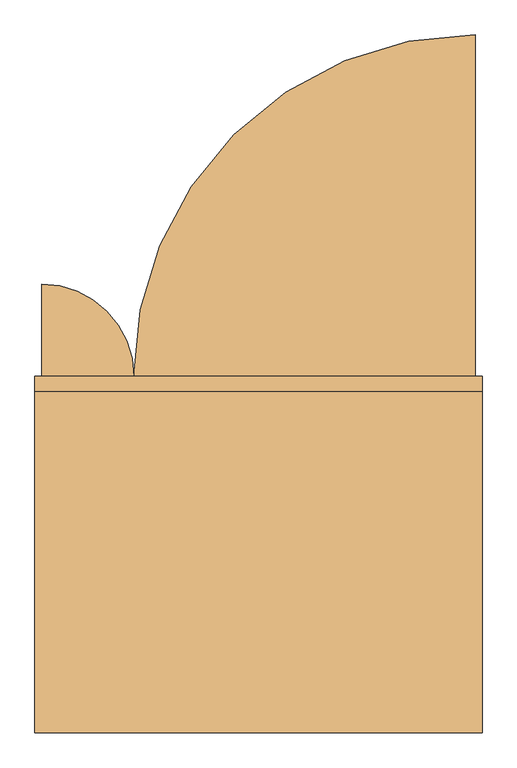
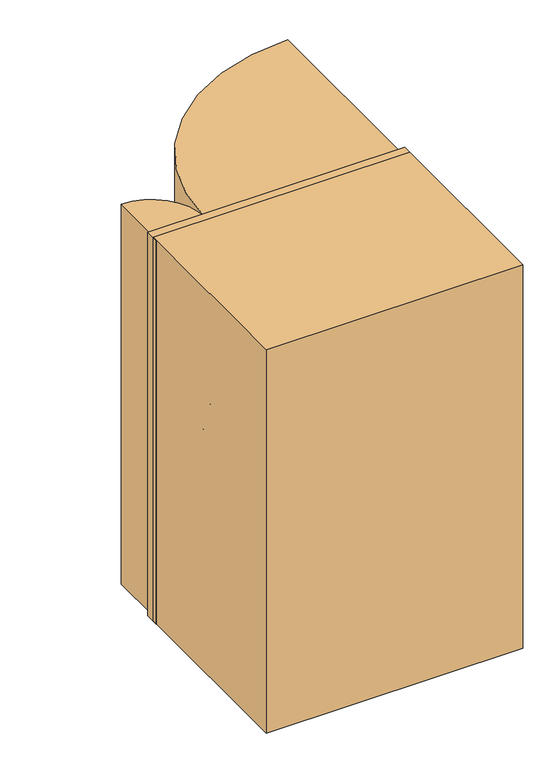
"""IFC4 building model written with IfcOpenShell, lengths in millimetres: door geometry, Дверь_Противопожарная_Внутренняя_Двупольная_с_Порогом : 1310 х 2070(h)_Л_EI30."""

from ifc_helpers import new_model, si_unit, point, frame, frame_2d, origin, origin_with_axes, place, context, project, spatial, polyline, circle_curve, ellipse_curve, trimmed, segment, composite_curve, outline, extrude, faceted_brep, source, transform, mapped, element, save
from ifc_brep_helpers import plane_surface, cylinder_surface, revolved_surface, advanced_brep


def door_10c92136(model_context):
    return source(origin(), model_context, "Body", "SolidModel", [
        extrude(outline(composite_curve([segment(trimmed(circle_curve(frame_2d((-635.0, -17.5)), 270.0), [point((-635.0, 252.5))], [point((-365.0, -17.5))], False, "CARTESIAN"), True, "CONTINUOUS"), segment(polyline([(-365.0, -17.5), (-635.0, -17.5), (-635.0, 252.5)]), True, "CONTINUOUS")], self_intersect=False)), origin_with_axes(), (0.0, 0.0, 1.0), 2050.0),
        extrude(outline(composite_curve([segment(polyline([(635.0, 982.5), (635.0, -17.5), (-365.0, -17.5)]), True, "CONTINUOUS"), segment(trimmed(circle_curve(frame_2d((635.0, -17.5)), 1000.0), [point((-365.0, -17.5))], [point((635.0, 982.5))], False, "CARTESIAN"), True, "CONTINUOUS")], self_intersect=False)), origin_with_axes(), (0.0, 0.0, 1.0), 2050.0),
        extrude(outline(polyline([(-655.0, -1062.5), (-655.0, -62.5), (655.0, -62.5), (655.0, -1062.5), (-655.0, -1062.5)])), origin_with_axes(), (0.0, 0.0, 1.0), 2070.0),
        advanced_brep(
        [(-545.0, 44.5, 1000.0), (-545.0, 20.5, 1000.0), (-445.0, 20.5, 1000.0), (-445.0, 44.5, 1000.0), (-437.0, 12.5, 1000.0), (-413.0, 12.5, 1000.0), (-413.0, -122.5, 1000.0), (-413.0, -100.5, 1000.0), (-437.0, -100.5, 1000.0), (-437.0, -122.5, 1000.0), (-437.0, -9.5, 1000.0), (-413.0, -9.5, 1000.0), (-445.0, -130.5, 1000.0), (-445.0, -154.5, 1000.0), (-545.0, -154.5, 1000.0), (-545.0, -130.5, 1000.0), (-400.0, -9.5, 1000.0), (-450.0, -9.5, 1000.0), (-400.0, -100.5, 1000.0), (-450.0, -100.5, 1000.0)],
        [
            (0, 1, circle_curve(frame((-545.0, 32.5, 1000.0), z_axis=(-1.0, 0.0, 0.0), x_axis=(0.0, -1.0, 0.0)), 12.0)),
            (1, 0, circle_curve(frame((-545.0, 32.5, 1000.0), z_axis=(-1.0, 0.0, 0.0), x_axis=(0.0, -1.0, 0.0)), 12.0)),
            (1, 2),
            (2, 3, circle_curve(frame((-445.0, 32.5, 1000.0), z_axis=(-1.0, 0.0, 0.0), x_axis=(0.0, -1.0, 0.0)), 12.0)),
            (3, 0),
            (3, 2, circle_curve(frame((-445.0, 32.5, 1000.0), z_axis=(-1.0, 0.0, 0.0), x_axis=(0.0, -1.0, 0.0)), 12.0)),
            (2, 4, circle_curve(frame((-445.0, 12.5, 1000.0), z_axis=(0.0, 0.0, -1.0), x_axis=(0.0, 1.0, 0.0)), 8.0)),
            (4, 5, circle_curve(frame((-425.0, 12.5, 1000.0), z_axis=(0.0, 1.0, 0.0), x_axis=(-1.0, 0.0, 0.0)), 12.0)),
            (5, 3, circle_curve(frame((-445.0, 12.5, 1000.0), z_axis=(0.0, 0.0, 1.0), x_axis=(0.0, 1.0, 0.0)), 32.0)),
            (5, 4, circle_curve(frame((-425.0, 12.5, 1000.0), z_axis=(0.0, 1.0, 0.0), x_axis=(-1.0, 0.0, 0.0)), 12.0)),
            (6, 7),
            (7, 8, circle_curve(frame((-425.0, -100.5, 1000.0), z_axis=(0.0, -1.0, 0.0), x_axis=(-1.0, 0.0, 0.0)), 12.0)),
            (8, 9),
            (9, 6, circle_curve(frame((-425.0, -122.5, 1000.0), z_axis=(0.0, 1.0, 0.0), x_axis=(-1.0, 0.0, 0.0)), 12.0)),
            (4, 10),
            (10, 11, circle_curve(frame((-425.0, -9.5, 1000.0), z_axis=(0.0, 1.0, 0.0), x_axis=(-1.0, 0.0, 0.0)), 12.0)),
            (11, 5),
            (11, 10, circle_curve(frame((-425.0, -9.5, 1000.0), z_axis=(0.0, 1.0, 0.0), x_axis=(-1.0, 0.0, 0.0)), 12.0)),
            (8, 7, circle_curve(frame((-425.0, -100.5, 1000.0), z_axis=(0.0, -1.0, 0.0), x_axis=(-1.0, 0.0, 0.0)), 12.0)),
            (6, 9, circle_curve(frame((-425.0, -122.5, 1000.0), z_axis=(0.0, 1.0, 0.0), x_axis=(-1.0, 0.0, 0.0)), 12.0)),
            (9, 12, circle_curve(frame((-445.0, -122.5, 1000.0), z_axis=(0.0, 0.0, -1.0), x_axis=(1.0, 0.0, 0.0)), 8.0)),
            (12, 13, circle_curve(frame((-445.0, -142.5, 1000.0), z_axis=(1.0, 0.0, 0.0), x_axis=(0.0, 1.0, 0.0)), 12.0)),
            (13, 6, circle_curve(frame((-445.0, -122.5, 1000.0), z_axis=(0.0, 0.0, 1.0), x_axis=(1.0, 0.0, 0.0)), 32.0)),
            (13, 12, circle_curve(frame((-445.0, -142.5, 1000.0), z_axis=(1.0, 0.0, 0.0), x_axis=(0.0, 1.0, 0.0)), 12.0)),
            (14, 15, circle_curve(frame((-545.0, -142.5, 1000.0), z_axis=(-1.0, 0.0, 0.0), x_axis=(0.0, 1.0, 0.0)), 12.0)),
            (15, 14, circle_curve(frame((-545.0, -142.5, 1000.0), z_axis=(-1.0, 0.0, 0.0), x_axis=(0.0, 1.0, 0.0)), 12.0)),
            (12, 15),
            (14, 13),
            (16, 17, circle_curve(frame((-425.0, -9.5, 1000.0), z_axis=(0.0, 1.0, 0.0), x_axis=(-1.0, 0.0, 0.0)), 25.0)),
            (17, 16, circle_curve(frame((-425.0, -9.5, 1000.0), z_axis=(0.0, 1.0, 0.0), x_axis=(-1.0, 0.0, 0.0)), 25.0)),
            (18, 19, circle_curve(frame((-425.0, -100.5, 1000.0), z_axis=(0.0, -1.0, 0.0), x_axis=(-1.0, 0.0, 0.0)), 25.0)),
            (19, 18, circle_curve(frame((-425.0, -100.5, 1000.0), z_axis=(0.0, -1.0, 0.0), x_axis=(-1.0, 0.0, 0.0)), 25.0)),
            (16, 18),
            (19, 17),
        ],
        [
            plane_surface(frame((-545.0, 32.5, 1000.0), z_axis=(-1.0, 0.0, 0.0), x_axis=(0.0, 0.0, 1.0))),
            cylinder_surface(frame((-545.0, 32.5, 1000.0), z_axis=(-1.0, 0.0, 0.0), x_axis=(0.0, -1.0, 0.0)), 12.0),
            revolved_surface(trimmed(ellipse_curve(frame((-445.0, 32.5, 1000.0), z_axis=(1.0, 0.0, 0.0), x_axis=(0.0, -1.0, 0.0)), 12.0, 12.0), [point((-445.0, 44.5, 1000.0))], [point((-445.0, 20.5, 1000.0))], True, "CARTESIAN"), (-445.0, 12.5, 1000.0), (0.0, 0.0, 1.0)),
            revolved_surface(trimmed(ellipse_curve(frame((-445.0, 32.5, 1000.0), z_axis=(1.0, 0.0, 0.0), x_axis=(0.0, -1.0, 0.0)), 12.0, 12.0), [point((-445.0, 20.5, 1000.0))], [point((-445.0, 44.5, 1000.0))], True, "CARTESIAN"), (-445.0, 12.5, 1000.0), (0.0, 0.0, 1.0)),
            cylinder_surface(frame((-425.0, 12.5, 1000.0), z_axis=(0.0, 1.0, 0.0), x_axis=(-1.0, 0.0, 0.0)), 12.0),
            revolved_surface(trimmed(ellipse_curve(frame((-425.0, -122.5, 1000.0), z_axis=(0.0, -1.0, 0.0), x_axis=(-1.0, 0.0, 0.0)), 12.0, 12.0), [point((-413.0, -122.5, 1000.0))], [point((-437.0, -122.5, 1000.0))], True, "CARTESIAN"), (-445.0, -122.5, 1000.0), (0.0, 0.0, 1.0)),
            revolved_surface(trimmed(ellipse_curve(frame((-425.0, -122.5, 1000.0), z_axis=(0.0, -1.0, 0.0), x_axis=(-1.0, 0.0, 0.0)), 12.0, 12.0), [point((-437.0, -122.5, 1000.0))], [point((-413.0, -122.5, 1000.0))], True, "CARTESIAN"), (-445.0, -122.5, 1000.0), (0.0, 0.0, 1.0)),
            plane_surface(frame((-545.0, -142.5, 1000.0), z_axis=(-1.0, 0.0, 0.0), x_axis=(0.0, 0.0, 1.0))),
            cylinder_surface(frame((-445.0, -142.5, 1000.0), z_axis=(1.0, 0.0, 0.0), x_axis=(0.0, 1.0, 0.0)), 12.0),
            plane_surface(frame((-450.0, -9.5, 1000.0), z_axis=(0.0, 1.0, 0.0), x_axis=(0.0, 0.0, -1.0))),
            plane_surface(frame((-450.0, -100.5, 1000.0), z_axis=(0.0, -1.0, 0.0), x_axis=(0.0, 0.0, 1.0))),
            cylinder_surface(frame((-425.0, -9.5, 1000.0), z_axis=(0.0, -1.0, 0.0), x_axis=(-1.0, 0.0, 0.0)), 25.0),
        ],
        [
            (0, [[1, 2]]),
            (1, [[3, 4, 5, -2]]),
            (1, [[-5, 6, -3, -1]]),
            (2, [[7, 8, 9, -4]]),
            (3, [[-9, 10, -7, -6]]),
            (4, [[11, 12, 13, 14]]),
            (4, [[15, 16, 17, -8]]),
            (4, [[-17, 18, -15, -10]]),
            (4, [[-13, 19, -11, 20]]),
            (5, [[21, 22, 23, -14]]),
            (6, [[-23, 24, -21, -20]]),
            (7, [[25, 26]]),
            (8, [[27, -25, 28, -22]]),
            (8, [[-28, -26, -27, -24]]),
            (9, [[29, 30], [-18, -16]]),
            (10, [[31, 32], [-19, -12]]),
            (11, [[33, -32, 34, -29]]),
            (11, [[-34, -31, -33, -30]]),
        ],
    ),
        extrude(outline(composite_curve([segment(trimmed(circle_curve(frame_2d((900.0, -425.0)), 25.0), [point((900.0, -400.0))], [point((900.0, -450.0))], False, "CARTESIAN"), True, "CONTINUOUS"), segment(trimmed(circle_curve(frame_2d((900.0, -425.0)), 25.0), [point((900.0, -450.0))], [point((900.0, -400.0))], False, "CARTESIAN"), True, "CONTINUOUS")], self_intersect=False)), frame((0.0, -100.5, 0.0), z_axis=(0.0, 1.0, 0.0), x_axis=(0.0, 0.0, 1.0)), (0.0, 0.0, 1.0), 91.0),
        advanced_brep(
        [(-185.0, 44.5, 1000.0), (-185.0, 20.5, 1000.0), (-285.0, 44.5, 1000.0), (-285.0, 20.5, 1000.0), (-317.0, 12.5, 1000.0), (-293.0, 12.5, 1000.0), (-317.0, -9.5, 1000.0), (-293.0, -9.5, 1000.0), (-317.0, -122.5, 1000.0), (-293.0, -122.5, 1000.0), (-293.0, -100.5, 1000.0), (-317.0, -100.5, 1000.0), (-285.0, -154.5, 1000.0), (-285.0, -130.5, 1000.0), (-185.0, -154.5, 1000.0), (-185.0, -130.5, 1000.0), (-330.0, -9.5, 1000.0), (-280.0, -9.5, 1000.0), (-330.0, -100.5, 1000.0), (-280.0, -100.5, 1000.0)],
        [
            (0, 1, circle_curve(frame((-185.0, 32.5, 1000.0), z_axis=(1.0, 0.0, 0.0), x_axis=(0.0, -1.0, 0.0)), 12.0)),
            (1, 0, circle_curve(frame((-185.0, 32.5, 1000.0), z_axis=(1.0, 0.0, 0.0), x_axis=(0.0, -1.0, 0.0)), 12.0)),
            (0, 2),
            (2, 3, circle_curve(frame((-285.0, 32.5, 1000.0), z_axis=(1.0, 0.0, 0.0), x_axis=(0.0, -1.0, 0.0)), 12.0)),
            (3, 1),
            (3, 2, circle_curve(frame((-285.0, 32.5, 1000.0), z_axis=(1.0, 0.0, 0.0), x_axis=(0.0, -1.0, 0.0)), 12.0)),
            (2, 4, circle_curve(frame((-285.0, 12.5, 1000.0), z_axis=(0.0, 0.0, 1.0), x_axis=(0.0, 1.0, 0.0)), 32.0)),
            (4, 5, circle_curve(frame((-305.0, 12.5, 1000.0), z_axis=(0.0, 1.0, 0.0), x_axis=(1.0, 0.0, 0.0)), 12.0)),
            (5, 3, circle_curve(frame((-285.0, 12.5, 1000.0), z_axis=(0.0, 0.0, -1.0), x_axis=(0.0, 1.0, 0.0)), 8.0)),
            (5, 4, circle_curve(frame((-305.0, 12.5, 1000.0), z_axis=(0.0, 1.0, 0.0), x_axis=(1.0, 0.0, 0.0)), 12.0)),
            (4, 6),
            (6, 7, circle_curve(frame((-305.0, -9.5, 1000.0), z_axis=(0.0, 1.0, 0.0), x_axis=(1.0, 0.0, 0.0)), 12.0)),
            (7, 5),
            (8, 9, circle_curve(frame((-305.0, -122.5, 1000.0), z_axis=(0.0, 1.0, 0.0), x_axis=(1.0, 0.0, 0.0)), 12.0)),
            (9, 10),
            (10, 11, circle_curve(frame((-305.0, -100.5, 1000.0), z_axis=(0.0, -1.0, 0.0), x_axis=(1.0, 0.0, 0.0)), 12.0)),
            (11, 8),
            (7, 6, circle_curve(frame((-305.0, -9.5, 1000.0), z_axis=(0.0, 1.0, 0.0), x_axis=(1.0, 0.0, 0.0)), 12.0)),
            (9, 8, circle_curve(frame((-305.0, -122.5, 1000.0), z_axis=(0.0, 1.0, 0.0), x_axis=(1.0, 0.0, 0.0)), 12.0)),
            (11, 10, circle_curve(frame((-305.0, -100.5, 1000.0), z_axis=(0.0, -1.0, 0.0), x_axis=(1.0, 0.0, 0.0)), 12.0)),
            (8, 12, circle_curve(frame((-285.0, -122.5, 1000.0), z_axis=(0.0, 0.0, 1.0), x_axis=(-1.0, 0.0, 0.0)), 32.0)),
            (12, 13, circle_curve(frame((-285.0, -142.5, 1000.0), z_axis=(-1.0, 0.0, 0.0), x_axis=(0.0, 1.0, 0.0)), 12.0)),
            (13, 9, circle_curve(frame((-285.0, -122.5, 1000.0), z_axis=(0.0, 0.0, -1.0), x_axis=(-1.0, 0.0, 0.0)), 8.0)),
            (13, 12, circle_curve(frame((-285.0, -142.5, 1000.0), z_axis=(-1.0, 0.0, 0.0), x_axis=(0.0, 1.0, 0.0)), 12.0)),
            (14, 15, circle_curve(frame((-185.0, -142.5, 1000.0), z_axis=(1.0, 0.0, 0.0), x_axis=(0.0, 1.0, 0.0)), 12.0)),
            (15, 14, circle_curve(frame((-185.0, -142.5, 1000.0), z_axis=(1.0, 0.0, 0.0), x_axis=(0.0, 1.0, 0.0)), 12.0)),
            (12, 14),
            (15, 13),
            (16, 17, circle_curve(frame((-305.0, -9.5, 1000.0), z_axis=(0.0, 1.0, 0.0), x_axis=(1.0, 0.0, 0.0)), 25.0)),
            (17, 16, circle_curve(frame((-305.0, -9.5, 1000.0), z_axis=(0.0, 1.0, 0.0), x_axis=(1.0, 0.0, 0.0)), 25.0)),
            (18, 19, circle_curve(frame((-305.0, -100.5, 1000.0), z_axis=(0.0, -1.0, 0.0), x_axis=(1.0, 0.0, 0.0)), 25.0)),
            (19, 18, circle_curve(frame((-305.0, -100.5, 1000.0), z_axis=(0.0, -1.0, 0.0), x_axis=(1.0, 0.0, 0.0)), 25.0)),
            (17, 19),
            (18, 16),
        ],
        [
            plane_surface(frame((-185.0, 32.5, 1000.0), z_axis=(1.0, 0.0, 0.0), x_axis=(0.0, 0.0, 1.0))),
            cylinder_surface(frame((-185.0, 32.5, 1000.0), z_axis=(1.0, 0.0, 0.0), x_axis=(0.0, -1.0, 0.0)), 12.0),
            revolved_surface(trimmed(ellipse_curve(frame((-285.0, 32.5, 1000.0), z_axis=(1.0, 0.0, 0.0), x_axis=(0.0, -1.0, 0.0)), 12.0, 12.0), [point((-285.0, 44.5, 1000.0))], [point((-285.0, 20.5, 1000.0))], True, "CARTESIAN"), (-285.0, 12.5, 1000.0), (0.0, 0.0, 1.0)),
            revolved_surface(trimmed(ellipse_curve(frame((-285.0, 32.5, 1000.0), z_axis=(1.0, 0.0, 0.0), x_axis=(0.0, -1.0, 0.0)), 12.0, 12.0), [point((-285.0, 20.5, 1000.0))], [point((-285.0, 44.5, 1000.0))], True, "CARTESIAN"), (-285.0, 12.5, 1000.0), (0.0, 0.0, 1.0)),
            cylinder_surface(frame((-305.0, 12.5, 1000.0), z_axis=(0.0, 1.0, 0.0), x_axis=(1.0, 0.0, 0.0)), 12.0),
            revolved_surface(trimmed(ellipse_curve(frame((-305.0, -122.5, 1000.0), z_axis=(0.0, 1.0, 0.0), x_axis=(1.0, 0.0, 0.0)), 12.0, 12.0), [point((-317.0, -122.5, 1000.0))], [point((-293.0, -122.5, 1000.0))], True, "CARTESIAN"), (-285.0, -122.5, 1000.0), (0.0, 0.0, 1.0)),
            revolved_surface(trimmed(ellipse_curve(frame((-305.0, -122.5, 1000.0), z_axis=(0.0, 1.0, 0.0), x_axis=(1.0, 0.0, 0.0)), 12.0, 12.0), [point((-293.0, -122.5, 1000.0))], [point((-317.0, -122.5, 1000.0))], True, "CARTESIAN"), (-285.0, -122.5, 1000.0), (0.0, 0.0, 1.0)),
            plane_surface(frame((-185.0, -142.5, 1000.0), z_axis=(1.0, 0.0, 0.0), x_axis=(0.0, 0.0, 1.0))),
            cylinder_surface(frame((-285.0, -142.5, 1000.0), z_axis=(-1.0, 0.0, 0.0), x_axis=(0.0, 1.0, 0.0)), 12.0),
            plane_surface(frame((-280.0, -9.5, 1000.0), z_axis=(0.0, 1.0, 0.0), x_axis=(0.0, 0.0, -1.0))),
            plane_surface(frame((-280.0, -100.5, 1000.0), z_axis=(0.0, -1.0, 0.0), x_axis=(0.0, 0.0, 1.0))),
            cylinder_surface(frame((-305.0, -9.5, 1000.0), z_axis=(0.0, -1.0, 0.0), x_axis=(1.0, 0.0, 0.0)), 25.0),
        ],
        [
            (0, [[1, 2]]),
            (1, [[-1, 3, 4, 5]]),
            (1, [[-2, -5, 6, -3]]),
            (2, [[-4, 7, 8, 9]]),
            (3, [[-6, -9, 10, -7]]),
            (4, [[-8, 11, 12, 13]]),
            (4, [[14, 15, 16, 17]]),
            (4, [[-10, -13, 18, -11]]),
            (4, [[19, -17, 20, -15]]),
            (5, [[-14, 21, 22, 23]]),
            (6, [[-19, -23, 24, -21]]),
            (7, [[25, 26]]),
            (8, [[-22, 27, -26, 28]]),
            (8, [[-24, -28, -25, -27]]),
            (9, [[29, 30], [-12, -18]]),
            (10, [[31, 32], [-16, -20]]),
            (11, [[-30, 33, -31, 34]]),
            (11, [[-29, -34, -32, -33]]),
        ],
    ),
        extrude(outline(composite_curve([segment(trimmed(circle_curve(frame_2d((900.0, -305.0)), 25.0), [point((900.0, -330.0))], [point((900.0, -280.0))], False, "CARTESIAN"), True, "CONTINUOUS"), segment(trimmed(circle_curve(frame_2d((900.0, -305.0)), 25.0), [point((900.0, -280.0))], [point((900.0, -330.0))], False, "CARTESIAN"), True, "CONTINUOUS")], self_intersect=False)), frame((0.0, -100.5, 0.0), z_axis=(0.0, 1.0, 0.0), x_axis=(0.0, 0.0, 1.0)), (0.0, 0.0, 1.0), 91.0),
        faceted_brep([(-635.0, -92.5, 0.0), (-635.0, -17.5, 0.0), (-560.0, -17.5, 0.0), (-560.0, -57.5, 0.0), (-550.0, -57.5, 0.0), (-550.0, -92.5, 0.0), (-635.0, -92.5, 2050.0), (-635.0, -17.5, 2050.0), (635.0, -17.5, 2050.0), (635.0, -17.5, 0.0), (560.0, -17.5, 0.0), (560.0, -17.5, 1975.0), (-560.0, -17.5, 1975.0), (-560.0, -57.5, 1975.0), (560.0, -57.5, 1975.0), (560.0, -57.5, 0.0), (550.0, -57.5, 0.0), (550.0, -57.5, 1965.0), (-550.0, -57.5, 1965.0), (-550.0, -92.5, 1965.0), (550.0, -92.5, 1965.0), (550.0, -92.5, 0.0), (635.0, -92.5, 0.0), (635.0, -92.5, 2050.0)], [[[0, 1, 2, 3, 4, 5]], [[1, 0, 6, 7]], [[2, 1, 7, 8, 9, 10, 11, 12]], [[3, 2, 12, 13]], [[4, 3, 13, 14, 15, 16, 17, 18]], [[5, 4, 18, 19]], [[0, 5, 19, 20, 21, 22, 23, 6]], [[7, 6, 23, 8]], [[13, 12, 11, 14]], [[19, 18, 17, 20]], [[22, 21, 16, 15, 10, 9]], [[8, 23, 22, 9]], [[14, 11, 10, 15]], [[20, 17, 16, 21]]]),
        extrude(outline(polyline([(0.0, 655.0), (2070.0, 655.0), (2070.0, -655.0), (0.0, -655.0), (0.0, -635.0), (2050.0, -635.0), (2050.0, 635.0), (0.0, 635.0), (0.0, 655.0)])), frame((0.0, -92.5, 0.0), z_axis=(0.0, 1.0, 0.0), x_axis=(0.0, 0.0, 1.0)), (0.0, 0.0, 1.0), 75.0),
        extrude(outline(polyline([(-560.0, -57.5), (-560.0, -17.5), (560.0, -17.5), (560.0, -57.5), (550.0, -57.5), (550.0, -92.5), (-550.0, -92.5), (-550.0, -57.5), (-560.0, -57.5)])), origin_with_axes(), (0.0, 0.0, 1.0), 15.0),
        extrude(outline(polyline([(-560.0, -17.5), (-365.0, -17.5), (-365.0, -97.5), (-560.0, -97.5), (-560.0, -17.5)])), frame((0.0, 0.0, 15.0), z_axis=(0.0, 0.0, 1.0), x_axis=(1.0, 0.0, 0.0)), (0.0, 0.0, 1.0), 1960.0),
        extrude(outline(polyline([(560.0, -17.5), (560.0, -57.5), (-365.0, -57.5), (-365.0, -17.5), (560.0, -17.5)])), frame((0.0, 0.0, 15.0), z_axis=(0.0, 0.0, 1.0), x_axis=(1.0, 0.0, 0.0)), (0.0, 0.0, 1.0), 1960.0),
    ])


if __name__ == "__main__":
    model = new_model("IFC4")
    model_context = context("Model", 3, world=origin())
    ifc_project = project(units=[si_unit("LENGTHUNIT", "METRE", prefix="MILLI")], contexts=[model_context])
    site = spatial("IfcSite", under=ifc_project)
    building = spatial("IfcBuilding", under=site)
    placement = place(None, origin())
    door_shape = door_10c92136(model_context)
    element("IfcDoor", 1, ObjectType="Дверь_Противопожарная_Внутренняя_Двупольная_с_Порогом : 1310 х 2070(h)_Л_EI30", at=placement, inside=building, context=model_context, shape_type="MappedRepresentation", body=[
        mapped(door_shape, transform((0.0, 0.0, 0.0), x_axis=(1.0, 0.0, 0.0), y_axis=(0.0, 1.0, 0.0), z_axis=(0.0, 0.0, 1.0))),
    ])
    save(model, "model.ifc")
